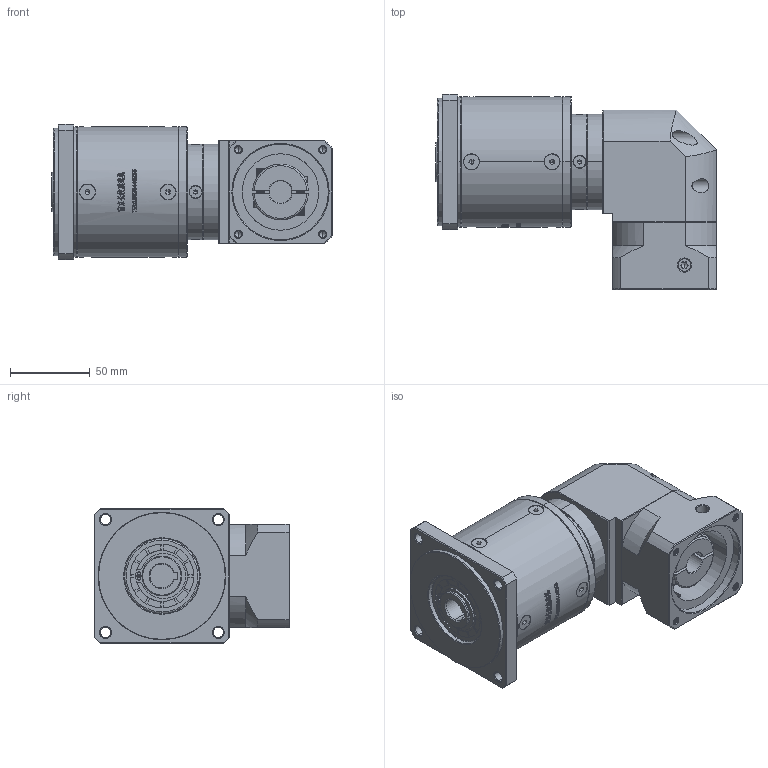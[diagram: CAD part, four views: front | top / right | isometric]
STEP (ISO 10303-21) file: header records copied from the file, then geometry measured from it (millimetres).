
FILE_DESCRIPTION (( 'STEP AP214' ), '1' );
FILE_NAME ('ZFR80-K15-L3-14-60-75-M5.step', '2022-05-08T15:01:09', ( '' ), ( 'Microsoft' ), 'SwSTEP 2.0', 'SolidWorks 2016', '' );
FILE_SCHEMA (( 'AUTOMOTIVE_DESIGN' ));
Length unit declared in the file: millimetre
Products named in the file (1): ZFR80-K15-L3-14-60-75-M5
Bounding box: 176 x 122.7 x 85 mm (x, y, z)
Volume: 885304.7 mm3; surface area: 107639.3 mm2
Topology: 17 solids, 18 shells, 3028 faces, 8094 edges, 5222 vertices
Faces by surface type: plane 1594, bspline 598, cylinder 441, cone 375, torus 20
Entity records: 159625 total; most frequent: CARTESIAN_POINT 55839, ORIENTED_EDGE 16100, DIRECTION 12316, EDGE_CURVE 8050, VERTEX_POINT 5222, LINE 4944, VECTOR 4944, AXIS2_PLACEMENT_3D 3686
